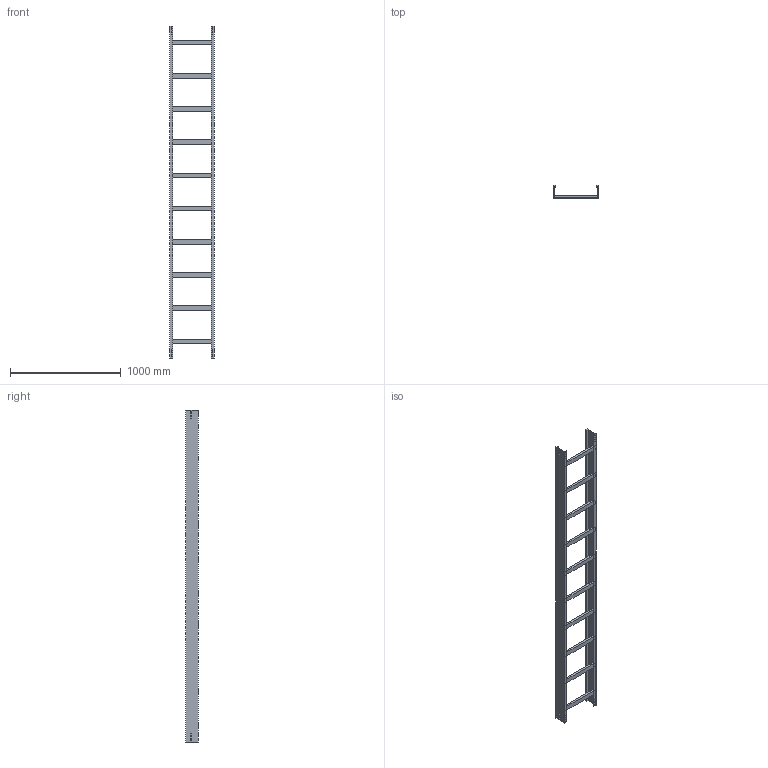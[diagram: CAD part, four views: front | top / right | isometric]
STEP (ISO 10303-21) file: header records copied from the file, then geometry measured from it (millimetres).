
FILE_DESCRIPTION (( 'STEP AP214' ), '1' );
FILE_NAME ('01B3J400.step', '2025-02-21T16:00:17', ( '' ), ( '' ), 'SwSTEP 2.0', 'SolidWorks 2023', '' );
FILE_SCHEMA (( 'AUTOMOTIVE_DESIGN' ));
Length unit declared in the file: millimetre
Products named in the file (3): TRAVERSINO_400; LONGH.H112.5; 01B3J400
Assembly tree (12 placements, depth 2):
  01B3J400
    LONGH.H112.5  x2
    TRAVERSINO_400  x10
Bounding box: 400 x 112.5 x 3000 mm (x, y, z)
Volume: 6004672 mm3; surface area: 2360156 mm2
Topology: 12 solids, 12 shells, 144 faces, 360 edges, 240 vertices
Faces by surface type: plane 144
Entity records: 1696 total; most frequent: CARTESIAN_POINT 283, ORIENTED_EDGE 264, DIRECTION 258, VECTOR 132, LINE 132, EDGE_CURVE 132, VERTEX_POINT 88, EDGE_LOOP 64
